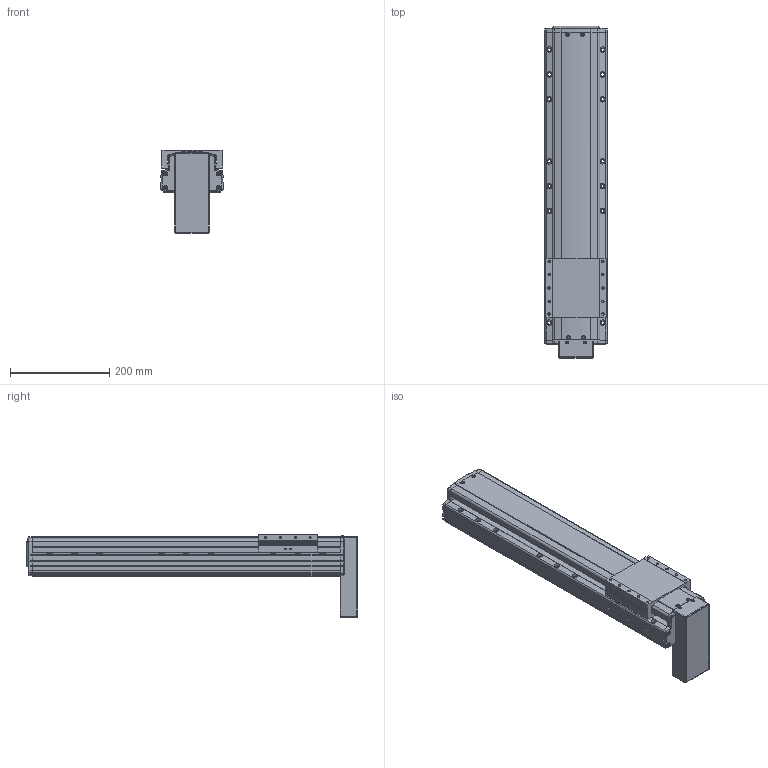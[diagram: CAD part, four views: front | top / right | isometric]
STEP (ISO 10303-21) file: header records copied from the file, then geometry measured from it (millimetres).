
FILE_DESCRIPTION(('STEP AP214'),'1');
FILE_NAME('Z:/Web/3D/PSA125/STP/PSA125-400 (3D)/PSA125ㅁㅁ-400PB.stp','2014-06-23T00:01:00',(' '),(' '),'Spatial InterOp 3D',' ',' ');
FILE_SCHEMA(('automotive_design'));
Length unit declared in the file: millimetre
Products named in the file (29): 스크루 : Round - M4.0 x 10.0; RRCV-PA120; SLIDE; BASE; FRCV-PA120-1(기준 뿔 제거); RR1500; 스크루 : Round - M4.0 x 6.0; 너트 : Square - M10.0 x 220.7419; 1; 2; 파트105; 스크루 : Round - M3.0 x 6.0
Bounding box: 125 x 668.6 x 169.06 mm (x, y, z)
Volume: 5787928 mm3; surface area: 516227.7 mm2
Topology: 29 solids, 29 shells, 2102 faces, 5591 edges, 3556 vertices
Faces by surface type: plane 1136, cylinder 608, cone 242, sphere 52, torus 33, bspline 31
Entity records: 83964 total; most frequent: CARTESIAN_POINT 13949, DIRECTION 11172, ORIENTED_EDGE 10922, EDGE_CURVE 5461, AXIS2_PLACEMENT_3D 3779, LINE 3614, VECTOR 3614, VERTEX_POINT 3556
